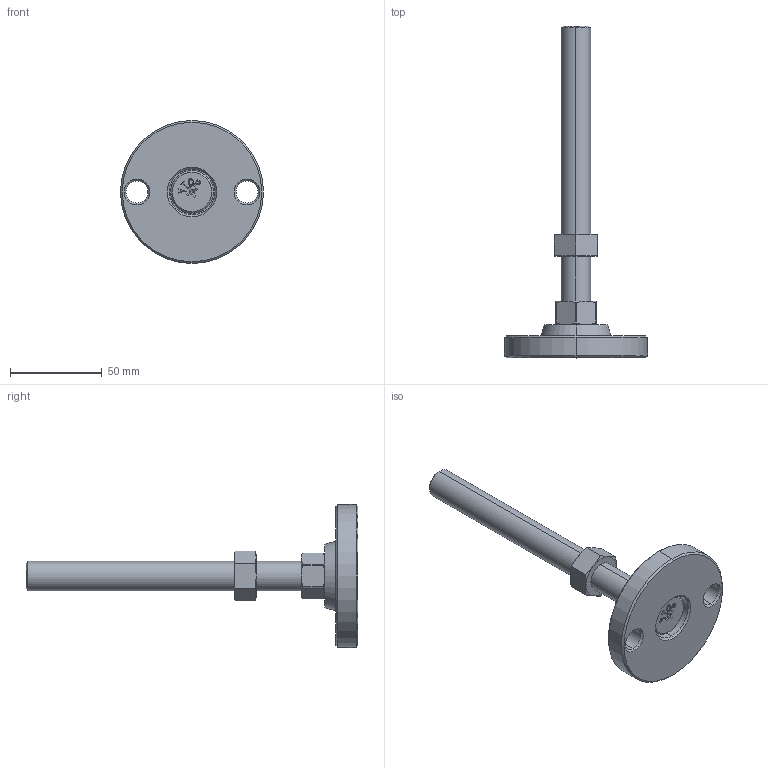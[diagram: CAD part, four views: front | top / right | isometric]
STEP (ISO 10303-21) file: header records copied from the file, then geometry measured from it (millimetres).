
FILE_DESCRIPTION (( 'STEP AP203' ), '1' );
FILE_NAME ('KL-80-16150-P.STEP', '2020-09-10T02:27:40', ( '' ), ( '' ), 'SwSTEP 2.0', 'SolidWorks 2016', '' );
FILE_SCHEMA (( 'CONFIG_CONTROL_DESIGN' ));
Length unit declared in the file: millimetre
Products named in the file (5): KL-80-0.1 KL80菁釱; 螺丝平底十字带商标M10系列_M10X14; KL-80-16150-P; 眻芛蹟邡M16炵蹈; 脚垫调节六角螺母M16
Assembly tree (4 placements, depth 2):
  KL-80-16150-P
    KL-80-0.1 KL80菁釱
    眻芛蹟邡M16炵蹈
    脚垫调节六角螺母M16
    螺丝平底十字带商标M10系列_M10X14
Bounding box: 78 x 181 x 78 mm (x, y, z)
Volume: 96957.3 mm3; surface area: 27386.9 mm2
Topology: 4 solids, 4 shells, 221 faces, 532 edges, 334 vertices
Faces by surface type: plane 101, cone 64, cylinder 32, bspline 24
Entity records: 8657 total; most frequent: CARTESIAN_POINT 3204, ORIENTED_EDGE 1056, DIRECTION 940, EDGE_CURVE 528, VERTEX_POINT 334, AXIS2_PLACEMENT_3D 326, LINE 288, VECTOR 288
